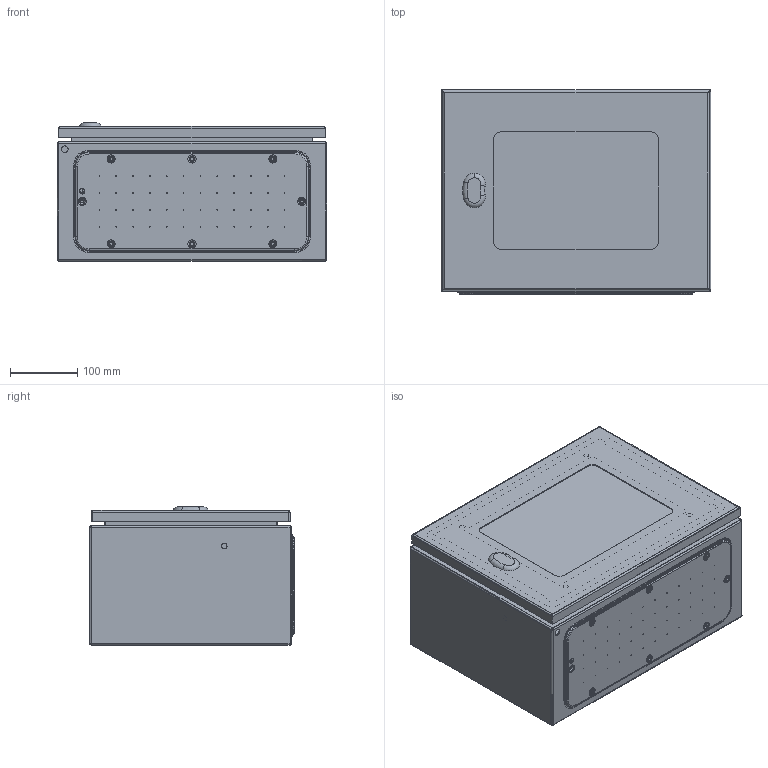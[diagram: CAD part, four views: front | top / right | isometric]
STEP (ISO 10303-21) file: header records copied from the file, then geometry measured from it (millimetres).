
FILE_DESCRIPTION (( 'STEP AP203' ), '1' );
FILE_NAME ('0400x0300x0200 dx.step', '2021-09-07T08:27:30', ( '' ), ( '' ), 'SwSTEP 2.0', 'SolidWorks 2021', '' );
FILE_SCHEMA (( 'CONFIG_CONTROL_DESIGN' ));
Length unit declared in the file: millimetre
Products named in the file (7): AR_ECOR_montaggio_porta_singola_vetro_0400x0300; AR_ECOR_porta_singola_vetro_0400x0300; 0400x0300x0200 dx; AR_ECOR_flangia IC_04; AR_ECOR_involucro_0400x0300x0200; AR_ECOR_chiusura_std_STD; AR_ECOR_Piastra_06
Assembly tree (6 placements, depth 3):
  0400x0300x0200 dx
    AR_ECOR_involucro_0400x0300x0200
    AR_ECOR_montaggio_porta_singola_vetro_0400x0300
      AR_ECOR_porta_singola_vetro_0400x0300
      AR_ECOR_chiusura_std_STD
    AR_ECOR_flangia IC_04
    AR_ECOR_Piastra_06
Bounding box: 400 x 304 x 205 mm (x, y, z)
Volume: 1272193.8 mm3; surface area: 1389514.2 mm2
Topology: 6 solids, 6 shells, 723 faces, 1742 edges, 1092 vertices
Faces by surface type: cylinder 351, plane 223, cone 64, torus 41, bspline 28, sphere 16
Entity records: 22849 total; most frequent: CARTESIAN_POINT 4758, DIRECTION 3877, ORIENTED_EDGE 3444, EDGE_CURVE 1722, AXIS2_PLACEMENT_3D 1546, VERTEX_POINT 1092, EDGE_LOOP 918, CIRCLE 841
